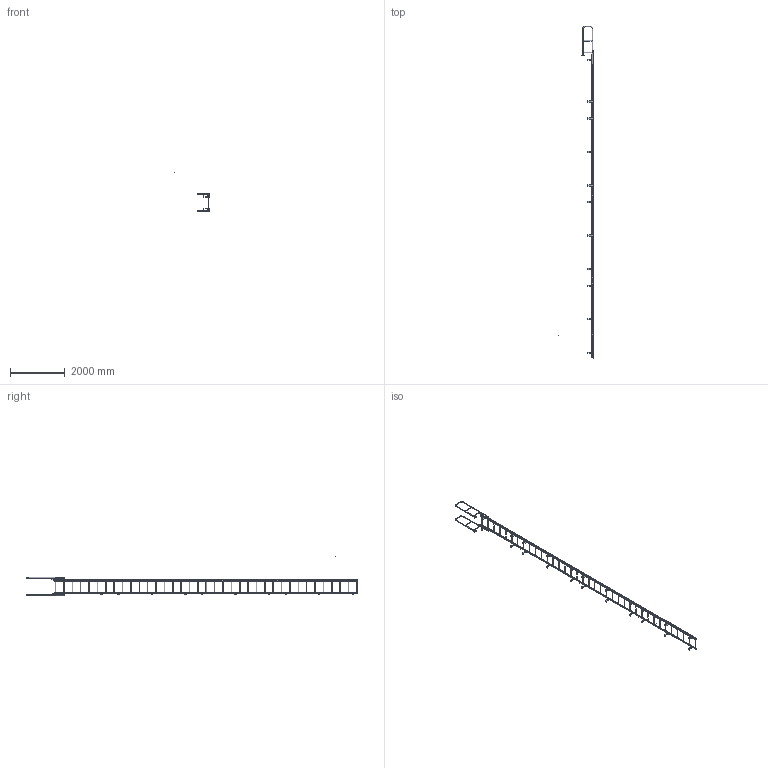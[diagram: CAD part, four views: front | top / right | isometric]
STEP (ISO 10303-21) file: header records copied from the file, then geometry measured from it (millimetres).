
FILE_DESCRIPTION(/* description */ (''),/* implementation_level */ '2;1');
FILE_NAME(/* name */ 'P:\MIKEL & KAREN\3570383 F37W SIMPLIFIED PART.stp',/* time_stamp */ '2018-07-02T16:17:59-04:00',/* author */ ('stephanie'),/* organization */ (''),/* preprocessor_version */ 'ST-DEVELOPER v16.1',/* originating_system */ 'Autodesk Inventor 2016',/* authorisation */ '');
FILE_SCHEMA (('AUTOMOTIVE_DESIGN { 1 0 10303 214 3 1 1 }'));
Length unit declared in the file: centimetre
Products named in the file (1): 3570383 F37W SIMPLIFIED PART
Bounding box: 1254.38 x 12087.23 x 1451.87 mm (x, y, z)
Volume: 20556825.3 mm3; surface area: 6945918.9 mm2
Topology: 46 solids, 46 shells, 744 faces, 1992 edges, 1312 vertices
Faces by surface type: plane 430, cylinder 306, torus 8
Full cylindrical faces by diameter (mm): 0.254 x1, 10.319 x4, 14.287 x28, 19.05 x37, 22.098 x10, 22.225 x74, 25.4 x10
Entity records: 23086 total; most frequent: CARTESIAN_POINT 4065, DIRECTION 3846, ORIENTED_EDGE 3436, EDGE_CURVE 1714, AXIS2_PLACEMENT_3D 1403, VERTEX_POINT 1206, EDGE_LOOP 1134, LINE 1040
